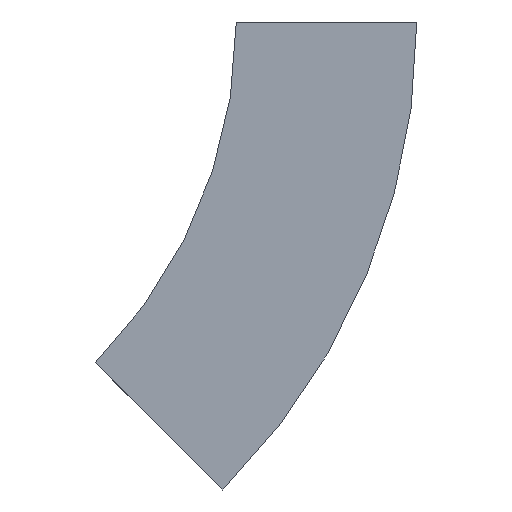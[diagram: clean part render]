
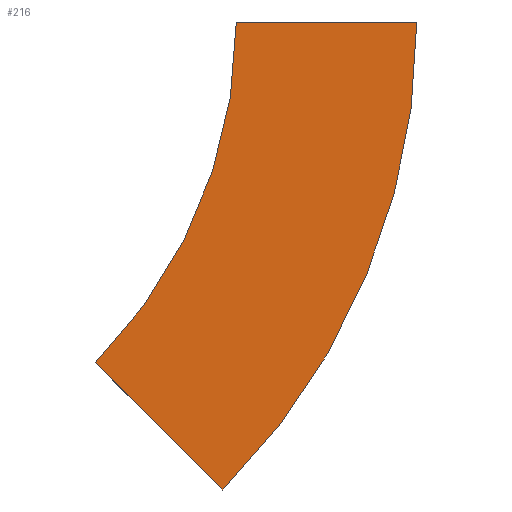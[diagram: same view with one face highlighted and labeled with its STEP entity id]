
A CAD part, left-side view. The second image highlights one B-rep face of the part: STEP entity #216.
In plain terms, the highlighted planar face has unit normal (-1, 0, 0) as drawn and (1, 0, 0) by its records, which use the part's own axes.
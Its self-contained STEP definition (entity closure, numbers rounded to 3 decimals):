
#12 = DIRECTION ( 'NONE',  ( 0., 0., 1. ) ) ;
#16 = VERTEX_POINT ( 'NONE', #457 ) ;
#17 = CARTESIAN_POINT ( 'NONE',  ( 0., -112.5, 0. ) ) ;
#106 = CARTESIAN_POINT ( 'NONE',  ( 0., 0., 0. ) ) ;
#114 = LINE ( 'NONE', #380, #561 ) ;
#122 = CARTESIAN_POINT ( 'NONE',  ( 0., 87.868, -212.132 ) ) ;
#129 = CIRCLE ( 'NONE', #167, 412.5 ) ;
#132 = ORIENTED_EDGE ( 'NONE', *, *, #520, .F. ) ;
#135 = DIRECTION ( 'NONE',  ( 1., 0., 0. ) ) ;
#165 = EDGE_CURVE ( 'NONE', #359, #559, #227, .T. ) ;
#167 = AXIS2_PLACEMENT_3D ( 'NONE', #345, #427, #296 ) ;
#185 = DIRECTION ( 'NONE',  ( -1., 0., 0. ) ) ;
#202 = ORIENTED_EDGE ( 'NONE', *, *, #304, .T. ) ;
#216 = ADVANCED_FACE ( 'NONE', ( #539 ), #400, .F. ) ;
#219 = AXIS2_PLACEMENT_3D ( 'NONE', #263, #135, #493 ) ;
#227 = CIRCLE ( 'NONE', #219, 300. ) ;
#236 = ORIENTED_EDGE ( 'NONE', *, *, #165, .F. ) ;
#259 = EDGE_CURVE ( 'NONE', #16, #379, #129, .T. ) ;
#263 = CARTESIAN_POINT ( 'NONE',  ( 0., 300., 0. ) ) ;
#270 = AXIS2_PLACEMENT_3D ( 'NONE', #17, #185, #12 ) ;
#296 = DIRECTION ( 'NONE',  ( 0., -1., 0. ) ) ;
#304 = EDGE_CURVE ( 'NONE', #379, #559, #485, .T. ) ;
#327 = ORIENTED_EDGE ( 'NONE', *, *, #259, .T. ) ;
#345 = CARTESIAN_POINT ( 'NONE',  ( 0., 300., 0. ) ) ;
#359 = VERTEX_POINT ( 'NONE', #106 ) ;
#368 = CARTESIAN_POINT ( 'NONE',  ( 0., 8.318, -291.682 ) ) ;
#377 = CARTESIAN_POINT ( 'NONE',  ( 0., 8.318, -291.682 ) ) ;
#379 = VERTEX_POINT ( 'NONE', #368 ) ;
#380 = CARTESIAN_POINT ( 'NONE',  ( 0., -112.5, 0. ) ) ;
#386 = DIRECTION ( 'NONE',  ( 0., 0.707, 0.707 ) ) ;
#400 = PLANE ( 'NONE',  #270 ) ;
#427 = DIRECTION ( 'NONE',  ( 1., 0., 0. ) ) ;
#429 = DIRECTION ( 'NONE',  ( 0., 1., 0. ) ) ;
#441 = VECTOR ( 'NONE', #386, 1000. ) ;
#457 = CARTESIAN_POINT ( 'NONE',  ( 0., -112.5, 0. ) ) ;
#485 = LINE ( 'NONE', #377, #441 ) ;
#493 = DIRECTION ( 'NONE',  ( 0., -1., 0. ) ) ;
#506 = EDGE_LOOP ( 'NONE', ( #236, #132, #327, #202 ) ) ;
#520 = EDGE_CURVE ( 'NONE', #16, #359, #114, .T. ) ;
#539 = FACE_OUTER_BOUND ( 'NONE', #506, .T. ) ;
#559 = VERTEX_POINT ( 'NONE', #122 ) ;
#561 = VECTOR ( 'NONE', #429, 1000. ) ;
